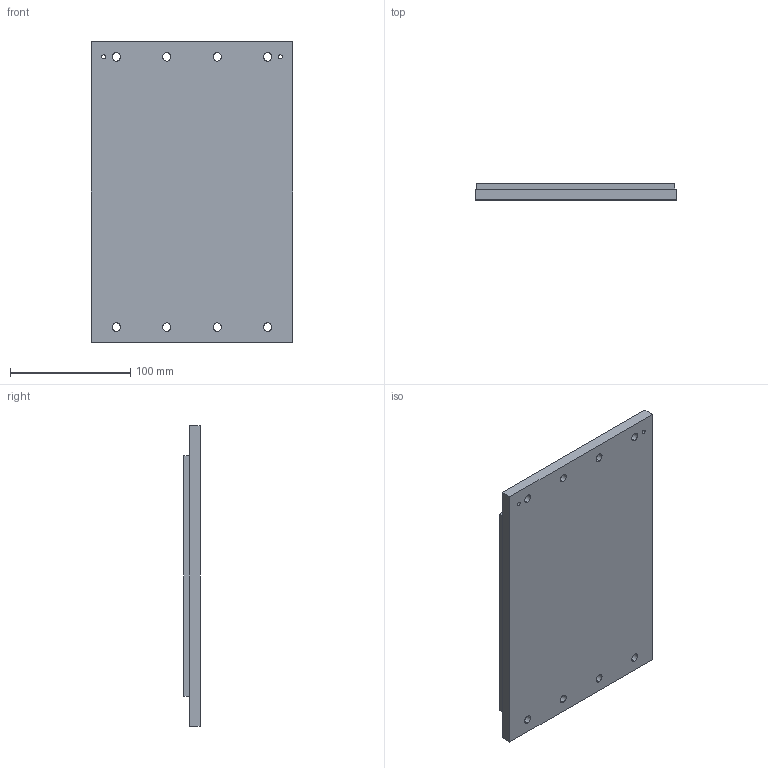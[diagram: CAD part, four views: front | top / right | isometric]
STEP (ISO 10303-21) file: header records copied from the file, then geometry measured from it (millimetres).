
FILE_DESCRIPTION (( 'STEP AP214' ), '1' );
FILE_NAME ('PIXM350-250-TL168-NC.step', '2021-11-01T10:03:15', ( '' ), ( '' ), 'SwSTEP 2.0', 'SolidWorks 2020', '' );
FILE_SCHEMA (( 'AUTOMOTIVE_DESIGN' ));
Length unit declared in the file: millimetre
Products named in the file (1): PIXM350-250-TL168-NC
Bounding box: 168 x 13.5 x 250 mm (x, y, z)
Volume: 522217.4 mm3; surface area: 162234.7 mm2
Topology: 2 solids, 2 shells, 67 faces, 162 edges, 108 vertices
Faces by surface type: cylinder 36, plane 31
Entity records: 2808 total; most frequent: DIRECTION 370, CARTESIAN_POINT 338, ORIENTED_EDGE 324, EDGE_CURVE 162, AXIS2_PLACEMENT_3D 140, VERTEX_POINT 108, EDGE_LOOP 96, LINE 90
